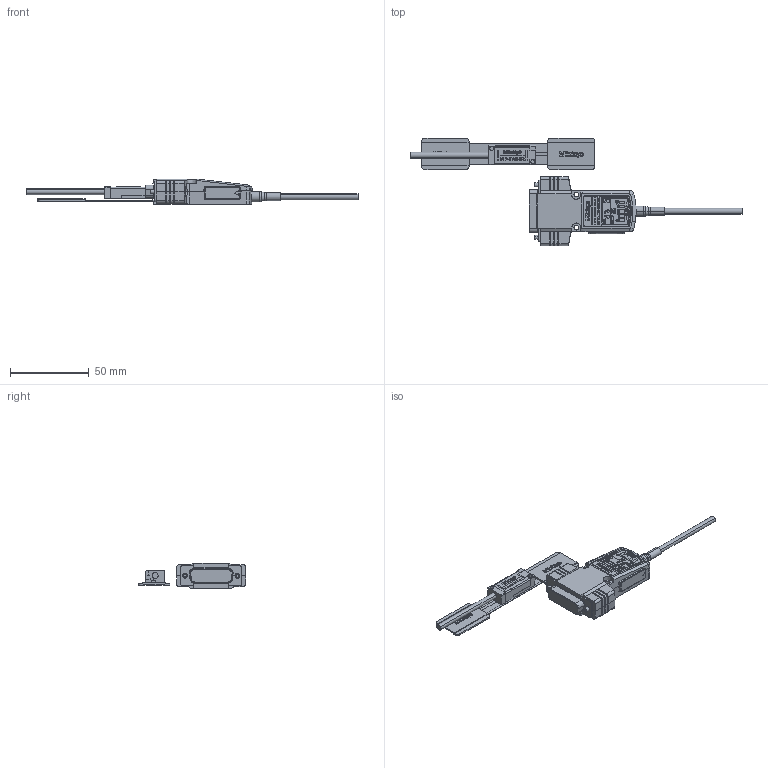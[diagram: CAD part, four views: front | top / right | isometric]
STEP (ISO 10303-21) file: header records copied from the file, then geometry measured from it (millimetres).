
FILE_DESCRIPTION(('Creo Elements/Direct Modeling STEP Export'),'2;1');
FILE_NAME('ST46EZA-10E.stp','2018-03-16T14:47:13',(''),(''),'Creo Elements/Direct Modeling STEP processor for AP214 (Solid Model)','Creo Elements/Direct Modeling 18.1B 29-Sep-2012 (C) Parametric Technology GmbH','');
FILE_SCHEMA(('AUTOMOTIVE_DESIGN { 1 0 10303 214 1 1 1 1 }'));
Length unit declared in the file: millimetre
Products named in the file (4): Scale_10; Detector_Head; IF_Unit; ST46EZA-10E
Assembly tree (3 placements, depth 2):
  ST46EZA-10E
    IF_Unit
    Detector_Head
    Scale_10
Bounding box: 211 x 68.36 x 16.3 mm (x, y, z)
Volume: 4576.7 mm3; surface area: 17813.8 mm2
Topology: 2 solids, 4 shells, 2294 faces, 6260 edges, 4149 vertices
Faces by surface type: plane 1426, cylinder 732, extrusion 39, cone 34, torus 30, bspline 29, revolution 4
Entity records: 79680 total; most frequent: CARTESIAN_POINT 20756, ORIENTED_EDGE 12511, DIRECTION 11375, EDGE_CURVE 6260, VECTOR 4311, LINE 4292, VERTEX_POINT 4149, AXIS2_PLACEMENT_3D 3529
